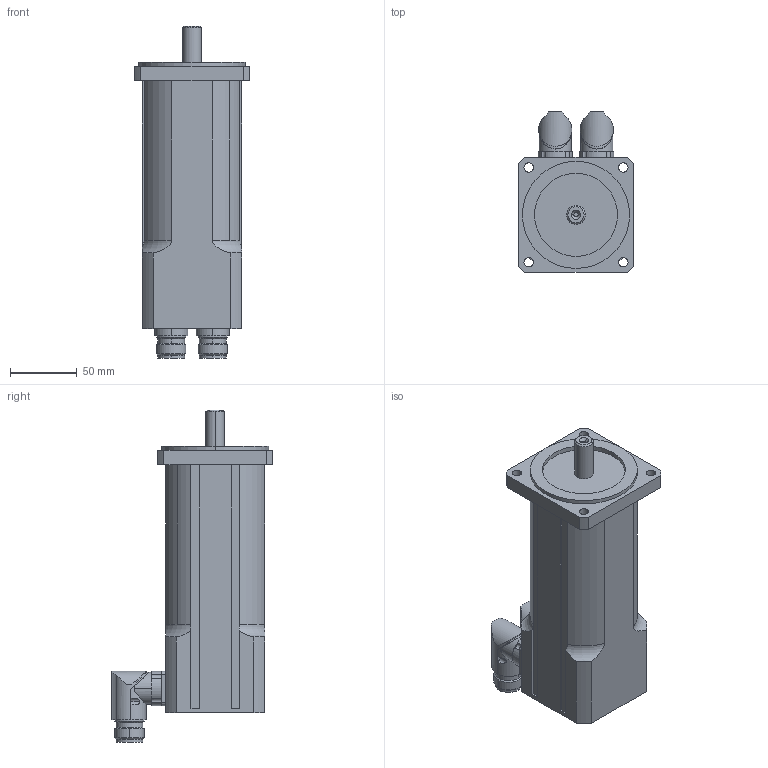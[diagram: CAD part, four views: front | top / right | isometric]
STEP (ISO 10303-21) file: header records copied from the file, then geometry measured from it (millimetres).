
FILE_DESCRIPTION((''),'2;1');
FILE_NAME('C:\Jetter\T\Ruzne\T3000 00 B Z_0250.stp','2005-04-05T12:58:59',('OslejsekP'),(''),'Autodesk Inventor 7','Autodesk Inventor 7','');
FILE_SCHEMA(('AUTOMOTIVE_DESIGN { 1 0 10303 214 1 1 1 1 }'));
Length unit declared in the file: millimetre
Products named in the file (3): T3000 00 B Z_0250; T3000 00 B_0250; Kon
Assembly tree (3 placements, depth 2):
  T3000 00 B Z_0250
    T3000 00 B_0250
    Kon  x2
Bounding box: 86 x 120.5 x 248 mm (x, y, z)
Volume: 1051201.7 mm3; surface area: 91821.4 mm2
Topology: 3 solids, 3 shells, 225 faces, 584 edges, 376 vertices
Faces by surface type: cylinder 104, plane 72, bspline 31, cone 14, torus 4
Entity records: 5289 total; most frequent: CARTESIAN_POINT 1503, DIRECTION 788, ORIENTED_EDGE 778, EDGE_CURVE 389, AXIS2_PLACEMENT_3D 302, VERTEX_POINT 252, VECTOR 184, LINE 184
